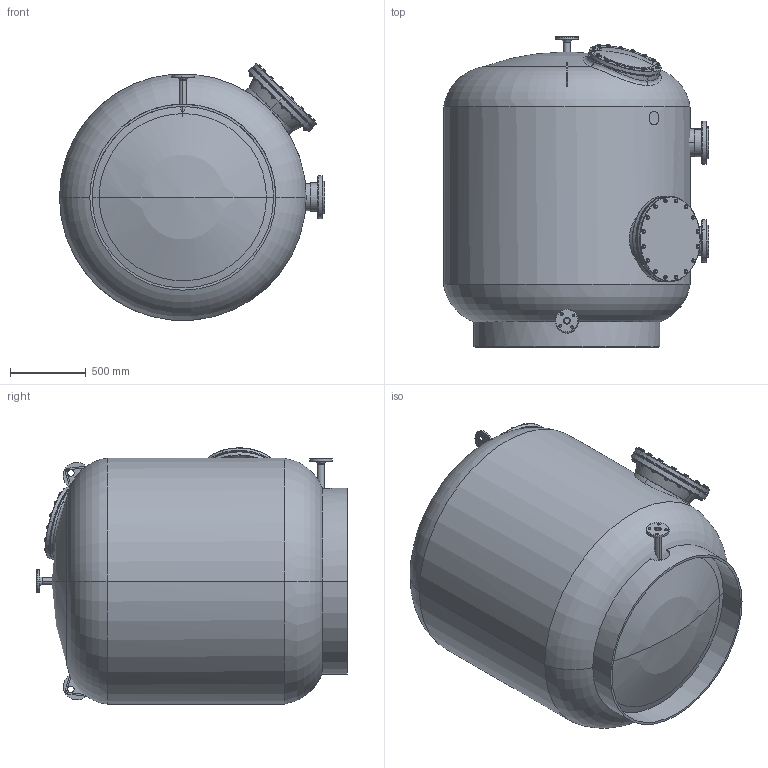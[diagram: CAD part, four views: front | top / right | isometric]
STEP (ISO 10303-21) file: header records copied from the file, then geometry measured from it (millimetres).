
FILE_DESCRIPTION (( 'STEP AP214' ), '1' );
FILE_NAME ('adriatic160c_sb1000_big.STEP', '2020-11-04T12:39:59', ( '' ), ( '' ), 'SwSTEP 2.0', 'SolidWorks 2019', '' );
FILE_SCHEMA (( 'AUTOMOTIVE_DESIGN' ));
Length unit declared in the file: millimetre
Products named in the file (1): adriatic160c_sb1000_big
Bounding box: 1751.9 x 2050.02 x 1694.7 mm (x, y, z)
Surface area: 27119743.2 mm2 (no closed solid volume)
Topology: 0 solids, 129 shells, 1899 faces, 4223 edges, 2584 vertices
Faces by surface type: cylinder 612, cone 611, plane 577, torus 77, bspline 12, sphere 10
Entity records: 104451 total; most frequent: CARTESIAN_POINT 41602, ORIENTED_EDGE 8298, DIRECTION 8250, EDGE_CURVE 4181, AXIS2_PLACEMENT_3D 3548, VERTEX_POINT 2582, EDGE_LOOP 2287, UNCERTAINTY_MEASURE_WITH_UNIT 2014
